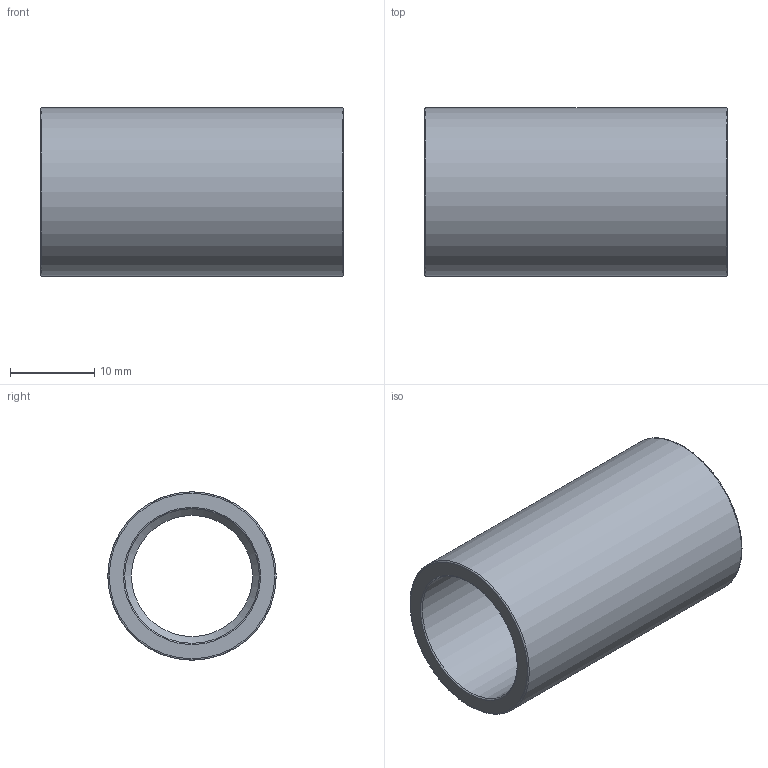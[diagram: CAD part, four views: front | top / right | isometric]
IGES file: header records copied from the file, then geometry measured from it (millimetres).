
Global section: file name: 050200020016.ipt; native system: Autodesk Inventor 2015; preprocessor: unknown; author: KIM; date: 20171207.164120; units: millimetre
Bounding box: 36 x 20 x 20 mm (x, y, z)
Volume: 4360.9 mm3; surface area: 4298 mm2
Topology: 1 solids, 1 shells, 12 faces, 35 edges, 26 vertices
Faces by surface type: revolution 8, plane 3, cylinder 1
Full cylindrical faces by diameter (mm): 20 x1
